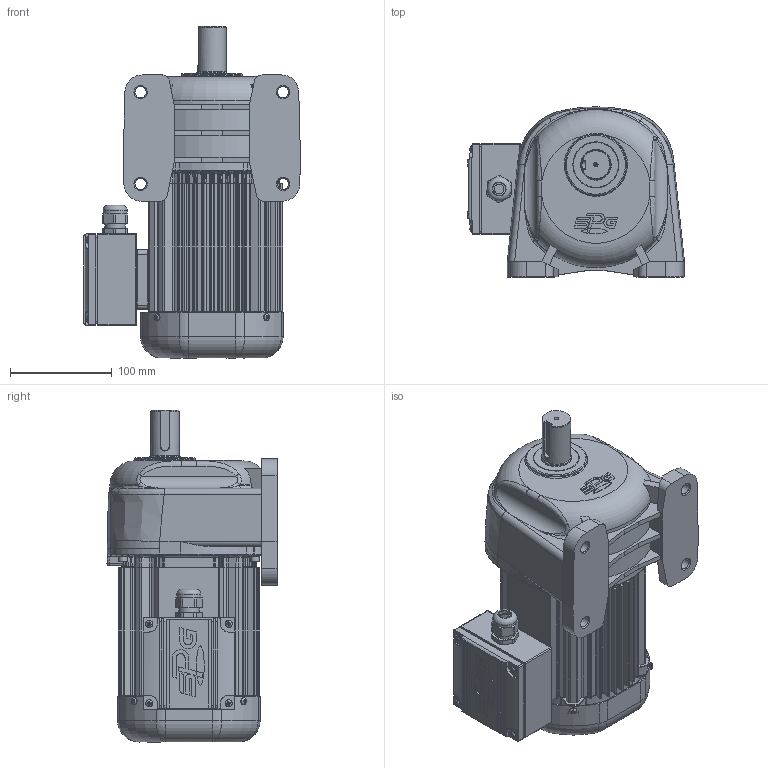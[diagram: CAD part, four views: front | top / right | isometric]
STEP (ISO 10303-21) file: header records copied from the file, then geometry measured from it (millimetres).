
FILE_DESCRIPTION(/* description */ (''),/* implementation_level */ '2;1');
FILE_NAME(/* name */ 'Z:\동력 3D 파일\PAL28-(30~100)-MA(B)040[ ]L_(3D).stp',/* time_stamp */ '2021-08-23T14:34:18+09:00',/* author */ ('jaebok'),/* organization */ (''),/* preprocessor_version */ 'ST-DEVELOPER v18.1',/* originating_system */ 'Autodesk Inventor 2022',/* authorisation */ '');
FILE_SCHEMA (('AUTOMOTIVE_DESIGN { 1 0 10303 214 3 1 1 }'));
Length unit declared in the file: millimetre
Products named in the file (1): 부품1
Bounding box: 213 x 166.97 x 326 mm (x, y, z)
Volume: 1859628.3 mm3; surface area: 573088.3 mm2
Topology: 2 solids, 34 shells, 3173 faces, 8047 edges, 4777 vertices
Faces by surface type: plane 997, cylinder 895, bspline 696, torus 327, cone 156, sphere 102
Full cylindrical faces by diameter (mm): 2 x1, 3.242 x5, 3.25 x1, 3.5 x4, 3.6 x4, 4 x21, 4.2 x4, 4.917 x4, 5 x19, 5.386 x4, 5.5 x4, 6 x9, 7 x12, 8 x5, 8.5 x4, 10 x1, 11 x4, 12.5 x1, 15 x1, 18 x1, 19 x2, 20 x2, 21 x1, 23.6 x1, 25 x1, 28 x2, 29.6 x1, 30 x5, 31 x1, 32 x1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
Entity records: 126327 total; most frequent: CARTESIAN_POINT 51309, ORIENTED_EDGE 15592, DIRECTION 14233, EDGE_CURVE 7796, AXIS2_PLACEMENT_3D 5752, VERTEX_POINT 4777, EDGE_LOOP 3356, CIRCLE 3186
